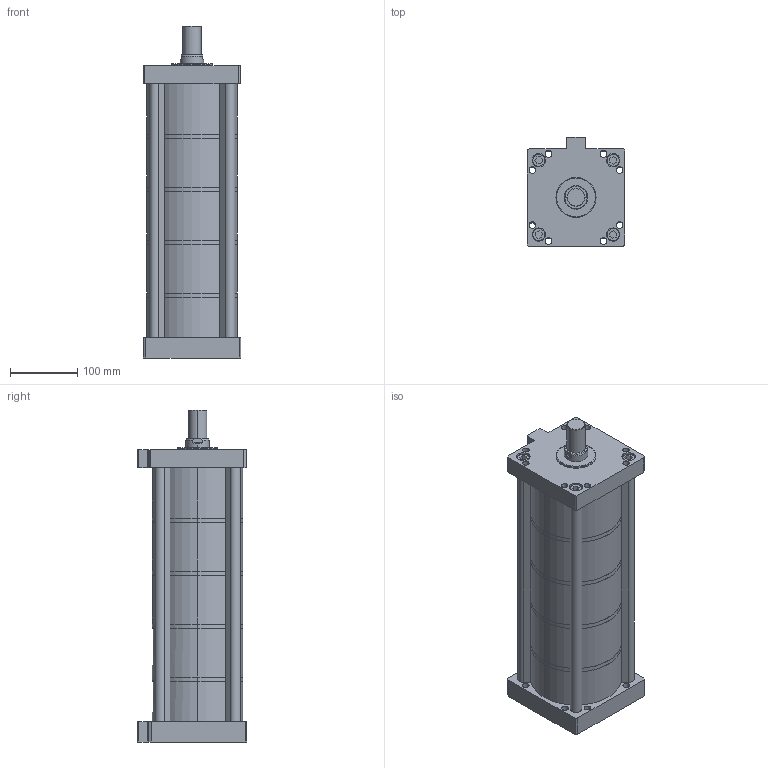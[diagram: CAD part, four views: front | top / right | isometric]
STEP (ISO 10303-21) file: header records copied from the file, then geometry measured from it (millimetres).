
FILE_DESCRIPTION (( 'STEP AP203' ), '1' );
FILE_NAME ('MHK-125-50-E-5.STEP', '2016-03-30T09:15:11', ( 'WIN' ), ( '' ), 'SwSTEP 2.0', 'SolidWorks 2014', '' );
FILE_SCHEMA (( 'CONFIG_CONTROL_DESIGN' ));
Length unit declared in the file: millimetre
Products named in the file (1): MHK-125-50-E-5
Bounding box: 146 x 163 x 495.5 mm (x, y, z)
Volume: 2588678.6 mm3; surface area: 728978.6 mm2
Topology: 4 solids, 8 shells, 336 faces, 809 edges, 532 vertices
Faces by surface type: plane 169, cylinder 153, cone 12, torus 2
Entity records: 10010 total; most frequent: DIRECTION 1809, CARTESIAN_POINT 1706, ORIENTED_EDGE 1610, EDGE_CURVE 805, AXIS2_PLACEMENT_3D 675, VERTEX_POINT 532, VECTOR 459, LINE 459
